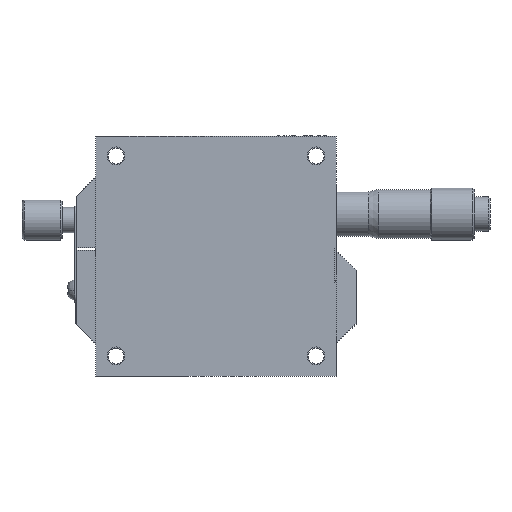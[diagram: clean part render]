
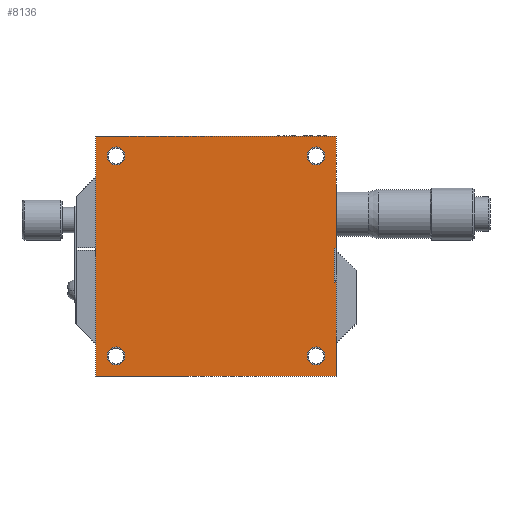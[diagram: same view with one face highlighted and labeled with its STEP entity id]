
A CAD part, front view. The second image highlights one B-rep face of the part: STEP entity #8136.
In plain terms, the highlighted planar face has unit normal (0, -1, 0).
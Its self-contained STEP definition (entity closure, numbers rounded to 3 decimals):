
#3173 = CARTESIAN_POINT ( 'NONE',  ( -27.25, -40., -25. ) ) ;
#3174 = CARTESIAN_POINT ( 'NONE',  ( -22.75, -40., -25. ) ) ;
#3175 = DIRECTION ( 'NONE',  ( -1., 0., 0. ) ) ;
#3179 = CIRCLE ( 'NONE', #3182, 2.25 ) ;
#3180 = DIRECTION ( 'NONE',  ( 0., 1., 0. ) ) ;
#3181 = CARTESIAN_POINT ( 'NONE',  ( -25., -40., -25. ) ) ;
#3182 = AXIS2_PLACEMENT_3D ( 'NONE', #3181, #3180, #3175 ) ;
#3532 = CARTESIAN_POINT ( 'NONE',  ( 27.25, -40., -25. ) ) ;
#3575 = CIRCLE ( 'NONE', #3579, 2.25 ) ;
#3576 = DIRECTION ( 'NONE',  ( -1., 0., 0. ) ) ;
#3577 = DIRECTION ( 'NONE',  ( 0., 1., 0. ) ) ;
#3578 = CARTESIAN_POINT ( 'NONE',  ( -25., -40., 25. ) ) ;
#3579 = AXIS2_PLACEMENT_3D ( 'NONE', #3578, #3577, #3576 ) ;
#3580 = CARTESIAN_POINT ( 'NONE',  ( -22.75, -40., 25. ) ) ;
#3592 = CARTESIAN_POINT ( 'NONE',  ( -27.25, -40., 25. ) ) ;
#3601 = CARTESIAN_POINT ( 'NONE',  ( 22.75, -40., -25. ) ) ;
#3903 = DIRECTION ( 'NONE',  ( -1., 0., 0. ) ) ;
#3904 = DIRECTION ( 'NONE',  ( 0., 1., 0. ) ) ;
#3905 = CARTESIAN_POINT ( 'NONE',  ( 25., -40., 25. ) ) ;
#3906 = AXIS2_PLACEMENT_3D ( 'NONE', #3905, #3904, #3903 ) ;
#3907 = CIRCLE ( 'NONE', #3906, 2.25 ) ;
#3939 = CARTESIAN_POINT ( 'NONE',  ( 22.75, -40., 25. ) ) ;
#3941 = CARTESIAN_POINT ( 'NONE',  ( 27.25, -40., 25. ) ) ;
#3952 = CARTESIAN_POINT ( 'NONE',  ( 30., -40., 30. ) ) ;
#3953 = CARTESIAN_POINT ( 'NONE',  ( -30., -40., 30. ) ) ;
#4228 = CARTESIAN_POINT ( 'NONE',  ( 29.5, -40., -6.5 ) ) ;
#4229 = LINE ( 'NONE', #4228, #4426 ) ;
#4304 = DIRECTION ( 'NONE',  ( 1., 0., 0. ) ) ;
#4305 = VECTOR ( 'NONE', #4304, 1000. ) ;
#4324 = CARTESIAN_POINT ( 'NONE',  ( -30., -40., 30. ) ) ;
#4325 = LINE ( 'NONE', #4324, #4305 ) ;
#4425 = DIRECTION ( 'NONE',  ( 1., 0., 0. ) ) ;
#4426 = VECTOR ( 'NONE', #4425, 1000. ) ;
#4747 = FACE_BOUND ( 'NONE', #8307, .T. ) ;
#4748 = DIRECTION ( 'NONE',  ( 0., 0., -1. ) ) ;
#4749 = VECTOR ( 'NONE', #4748, 1000. ) ;
#4750 = CARTESIAN_POINT ( 'NONE',  ( 29.5, -40., 2. ) ) ;
#4751 = LINE ( 'NONE', #4750, #4749 ) ;
#4810 = DIRECTION ( 'NONE',  ( -1., 0., 0. ) ) ;
#4811 = DIRECTION ( 'NONE',  ( 0., 1., 0. ) ) ;
#4812 = CARTESIAN_POINT ( 'NONE',  ( -25., -40., -25. ) ) ;
#4813 = AXIS2_PLACEMENT_3D ( 'NONE', #4812, #4811, #4810 ) ;
#4814 = CIRCLE ( 'NONE', #4813, 2.25 ) ;
#4815 = DIRECTION ( 'NONE',  ( -1., 0., 0. ) ) ;
#4816 = DIRECTION ( 'NONE',  ( 0., 1., 0. ) ) ;
#4817 = CARTESIAN_POINT ( 'NONE',  ( -25., -40., 25. ) ) ;
#4818 = AXIS2_PLACEMENT_3D ( 'NONE', #4817, #4816, #4815 ) ;
#4819 = CIRCLE ( 'NONE', #4818, 2.25 ) ;
#4823 = DIRECTION ( 'NONE',  ( 0., 0., -1. ) ) ;
#4824 = DIRECTION ( 'NONE',  ( 0., -1., 0. ) ) ;
#4825 = CARTESIAN_POINT ( 'NONE',  ( 30., -40., -30. ) ) ;
#4826 = AXIS2_PLACEMENT_3D ( 'NONE', #4825, #4824, #4823 ) ;
#4828 = PLANE ( 'NONE',  #4826 ) ;
#4829 = FACE_BOUND ( 'NONE', #8315, .T. ) ;
#4830 = FACE_BOUND ( 'NONE', #8316, .T. ) ;
#4831 = FACE_OUTER_BOUND ( 'NONE', #8311, .T. ) ;
#4832 = FACE_BOUND ( 'NONE', #8233, .T. ) ;
#5045 = VECTOR ( 'NONE', #5047, 1000. ) ;
#5047 = DIRECTION ( 'NONE',  ( 0., 0., -1. ) ) ;
#5048 = CARTESIAN_POINT ( 'NONE',  ( 30., -40., 30. ) ) ;
#5082 = LINE ( 'NONE', #5048, #5045 ) ;
#5096 = CARTESIAN_POINT ( 'NONE',  ( 30., -40., -30. ) ) ;
#5097 = DIRECTION ( 'NONE',  ( -1., 0., 0. ) ) ;
#5098 = VECTOR ( 'NONE', #5097, 1000. ) ;
#5099 = CARTESIAN_POINT ( 'NONE',  ( 30., -40., -30. ) ) ;
#5116 = CARTESIAN_POINT ( 'NONE',  ( 29.5, -40., -6.5 ) ) ;
#5117 = DIRECTION ( 'NONE',  ( -1., 0., 0. ) ) ;
#5118 = DIRECTION ( 'NONE',  ( 0., 1., 0. ) ) ;
#5119 = CARTESIAN_POINT ( 'NONE',  ( 25., -40., -25. ) ) ;
#5120 = AXIS2_PLACEMENT_3D ( 'NONE', #5119, #5118, #5117 ) ;
#5121 = CIRCLE ( 'NONE', #5120, 2.25 ) ;
#5138 = CARTESIAN_POINT ( 'NONE',  ( 30., -40., -6.5 ) ) ;
#5139 = CARTESIAN_POINT ( 'NONE',  ( 30., -40., 2. ) ) ;
#5140 = CARTESIAN_POINT ( 'NONE',  ( 29.5, -40., 2. ) ) ;
#5141 = DIRECTION ( 'NONE',  ( 1., 0., 0. ) ) ;
#5142 = VECTOR ( 'NONE', #5141, 1000. ) ;
#5143 = CARTESIAN_POINT ( 'NONE',  ( 29.5, -40., 2. ) ) ;
#5144 = LINE ( 'NONE', #5143, #5142 ) ;
#5160 = LINE ( 'NONE', #5099, #5098 ) ;
#5161 = CARTESIAN_POINT ( 'NONE',  ( -30., -40., -30. ) ) ;
#5162 = DIRECTION ( 'NONE',  ( 0., 0., 1. ) ) ;
#5163 = VECTOR ( 'NONE', #5162, 1000. ) ;
#5164 = CARTESIAN_POINT ( 'NONE',  ( -30., -40., -30. ) ) ;
#5174 = DIRECTION ( 'NONE',  ( -1., 0., 0. ) ) ;
#5175 = DIRECTION ( 'NONE',  ( 0., 1., 0. ) ) ;
#5176 = CARTESIAN_POINT ( 'NONE',  ( 25., -40., 25. ) ) ;
#5177 = AXIS2_PLACEMENT_3D ( 'NONE', #5176, #5175, #5174 ) ;
#5178 = CIRCLE ( 'NONE', #5177, 2.25 ) ;
#5205 = DIRECTION ( 'NONE',  ( 0., 0., -1. ) ) ;
#5206 = CARTESIAN_POINT ( 'NONE',  ( 30., -40., 30. ) ) ;
#5207 = LINE ( 'NONE', #5206, #5209 ) ;
#5208 = LINE ( 'NONE', #5164, #5163 ) ;
#5209 = VECTOR ( 'NONE', #5205, 1000. ) ;
#7371 = EDGE_CURVE ( 'NONE', #7592, #7591, #14728, .T. ) ;
#7530 = EDGE_CURVE ( 'NONE', #7531, #7532, #3179, .T. ) ;
#7531 = VERTEX_POINT ( 'NONE', #3174 ) ;
#7532 = VERTEX_POINT ( 'NONE', #3173 ) ;
#7591 = VERTEX_POINT ( 'NONE', #3601 ) ;
#7592 = VERTEX_POINT ( 'NONE', #3532 ) ;
#7594 = EDGE_CURVE ( 'NONE', #7595, #7596, #3575, .T. ) ;
#7595 = VERTEX_POINT ( 'NONE', #3580 ) ;
#7596 = VERTEX_POINT ( 'NONE', #3592 ) ;
#7720 = VERTEX_POINT ( 'NONE', #3941 ) ;
#7722 = VERTEX_POINT ( 'NONE', #3939 ) ;
#7740 = EDGE_CURVE ( 'NONE', #7720, #7722, #3907, .T. ) ;
#7781 = VERTEX_POINT ( 'NONE', #3953 ) ;
#7782 = VERTEX_POINT ( 'NONE', #3952 ) ;
#7824 = EDGE_CURVE ( 'NONE', #7781, #7782, #4325, .T. ) ;
#8131 = EDGE_CURVE ( 'NONE', #8227, #8310, #4751, .T. ) ;
#8132 = ORIENTED_EDGE ( 'NONE', *, *, #8131, .F. ) ;
#8136 = ADVANCED_FACE ( 'NONE', ( #4747, #4832, #4831, #4830, #4829 ), #4828, .T. ) ;
#8160 = EDGE_CURVE ( 'NONE', #7596, #7595, #4819, .T. ) ;
#8161 = ORIENTED_EDGE ( 'NONE', *, *, #8162, .T. ) ;
#8162 = EDGE_CURVE ( 'NONE', #7532, #7531, #4814, .T. ) ;
#8163 = ORIENTED_EDGE ( 'NONE', *, *, #7530, .T. ) ;
#8164 = EDGE_CURVE ( 'NONE', #8310, #8230, #4229, .T. ) ;
#8165 = ORIENTED_EDGE ( 'NONE', *, *, #8160, .T. ) ;
#8166 = ORIENTED_EDGE ( 'NONE', *, *, #8167, .F. ) ;
#8167 = EDGE_CURVE ( 'NONE', #8230, #8180, #5082, .T. ) ;
#8173 = EDGE_CURVE ( 'NONE', #7782, #8228, #5207, .T. ) ;
#8174 = ORIENTED_EDGE ( 'NONE', *, *, #7824, .F. ) ;
#8175 = ORIENTED_EDGE ( 'NONE', *, *, #8176, .F. ) ;
#8176 = EDGE_CURVE ( 'NONE', #8177, #7781, #5208, .T. ) ;
#8177 = VERTEX_POINT ( 'NONE', #5161 ) ;
#8178 = ORIENTED_EDGE ( 'NONE', *, *, #8179, .F. ) ;
#8179 = EDGE_CURVE ( 'NONE', #8180, #8177, #5160, .T. ) ;
#8180 = VERTEX_POINT ( 'NONE', #5096 ) ;
#8188 = ORIENTED_EDGE ( 'NONE', *, *, #7594, .T. ) ;
#8210 = EDGE_CURVE ( 'NONE', #7722, #7720, #5178, .T. ) ;
#8211 = ORIENTED_EDGE ( 'NONE', *, *, #7740, .T. ) ;
#8225 = ORIENTED_EDGE ( 'NONE', *, *, #8226, .T. ) ;
#8226 = EDGE_CURVE ( 'NONE', #8227, #8228, #5144, .T. ) ;
#8227 = VERTEX_POINT ( 'NONE', #5140 ) ;
#8228 = VERTEX_POINT ( 'NONE', #5139 ) ;
#8229 = ORIENTED_EDGE ( 'NONE', *, *, #8173, .F. ) ;
#8230 = VERTEX_POINT ( 'NONE', #5138 ) ;
#8231 = ORIENTED_EDGE ( 'NONE', *, *, #8164, .F. ) ;
#8232 = ORIENTED_EDGE ( 'NONE', *, *, #7371, .T. ) ;
#8233 = EDGE_LOOP ( 'NONE', ( #8234, #8211 ) ) ;
#8234 = ORIENTED_EDGE ( 'NONE', *, *, #8210, .T. ) ;
#8307 = EDGE_LOOP ( 'NONE', ( #8308, #8232 ) ) ;
#8308 = ORIENTED_EDGE ( 'NONE', *, *, #8309, .T. ) ;
#8309 = EDGE_CURVE ( 'NONE', #7591, #7592, #5121, .T. ) ;
#8310 = VERTEX_POINT ( 'NONE', #5116 ) ;
#8311 = EDGE_LOOP ( 'NONE', ( #8225, #8229, #8174, #8175, #8178, #8166, #8231, #8132 ) ) ;
#8315 = EDGE_LOOP ( 'NONE', ( #8161, #8163 ) ) ;
#8316 = EDGE_LOOP ( 'NONE', ( #8165, #8188 ) ) ;
#14728 = CIRCLE ( 'NONE', #14740, 2.25 ) ;
#14739 = CARTESIAN_POINT ( 'NONE',  ( 25., -40., -25. ) ) ;
#14740 = AXIS2_PLACEMENT_3D ( 'NONE', #14739, #14774, #14773 ) ;
#14773 = DIRECTION ( 'NONE',  ( -1., 0., 0. ) ) ;
#14774 = DIRECTION ( 'NONE',  ( 0., 1., 0. ) ) ;
